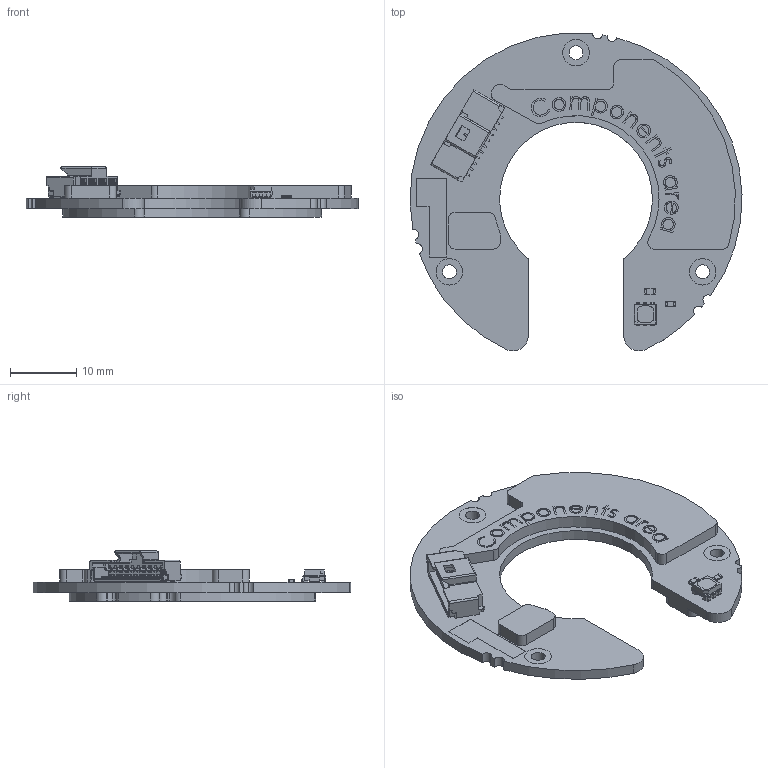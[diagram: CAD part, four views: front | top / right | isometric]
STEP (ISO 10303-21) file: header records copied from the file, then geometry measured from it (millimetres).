
FILE_DESCRIPTION (( 'STEP AP214' ), '1' );
FILE_NAME ('Orbis_fi22_v03_s_konektorjem_pokrov.step', '2024-01-23T06:48:23', ( '' ), ( '' ), 'SwSTEP 2.0', 'SolidWorks 2022', '' );
FILE_SCHEMA (( 'AUTOMOTIVE_DESIGN' ));
Length unit declared in the file: millimetre
Products named in the file (1): Orbis_fi22_v03_s_konektorjem_pokrov
Bounding box: 49.99 x 47.85 x 7.55 mm (x, y, z)
Volume: 3726.5 mm3; surface area: 4187.6 mm2
Topology: 4 solids, 4 shells, 1848 faces, 5017 edges, 3234 vertices
Faces by surface type: plane 1217, cylinder 289, bspline 250, cone 92
Entity records: 88928 total; most frequent: CARTESIAN_POINT 23028, ORIENTED_EDGE 10032, DIRECTION 8375, EDGE_CURVE 5016, LINE 3845, VECTOR 3845, VERTEX_POINT 3234, AXIS2_PLACEMENT_3D 2265
